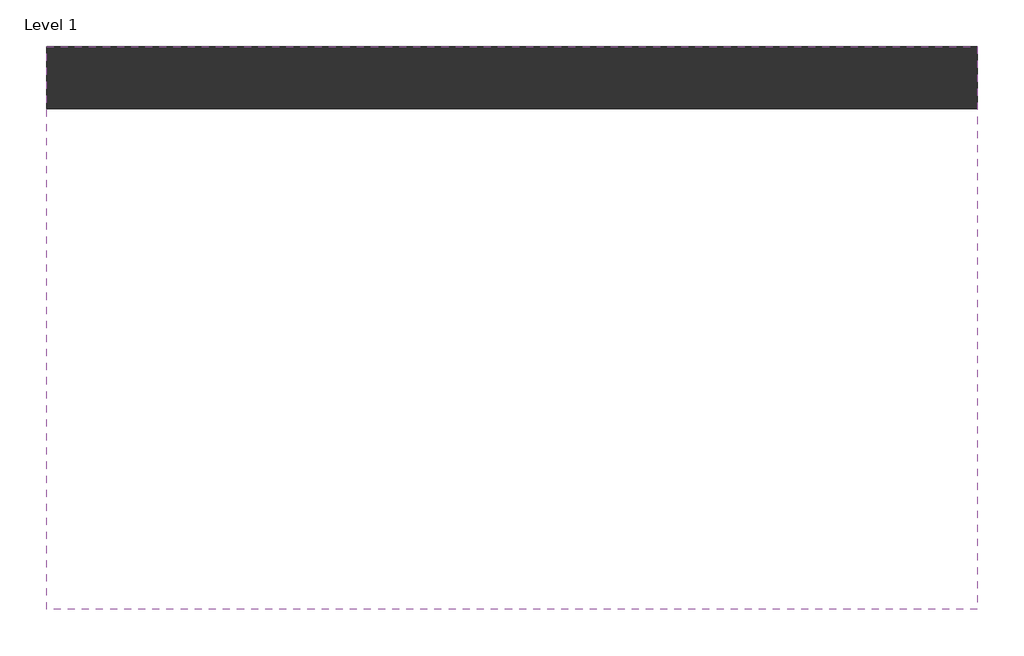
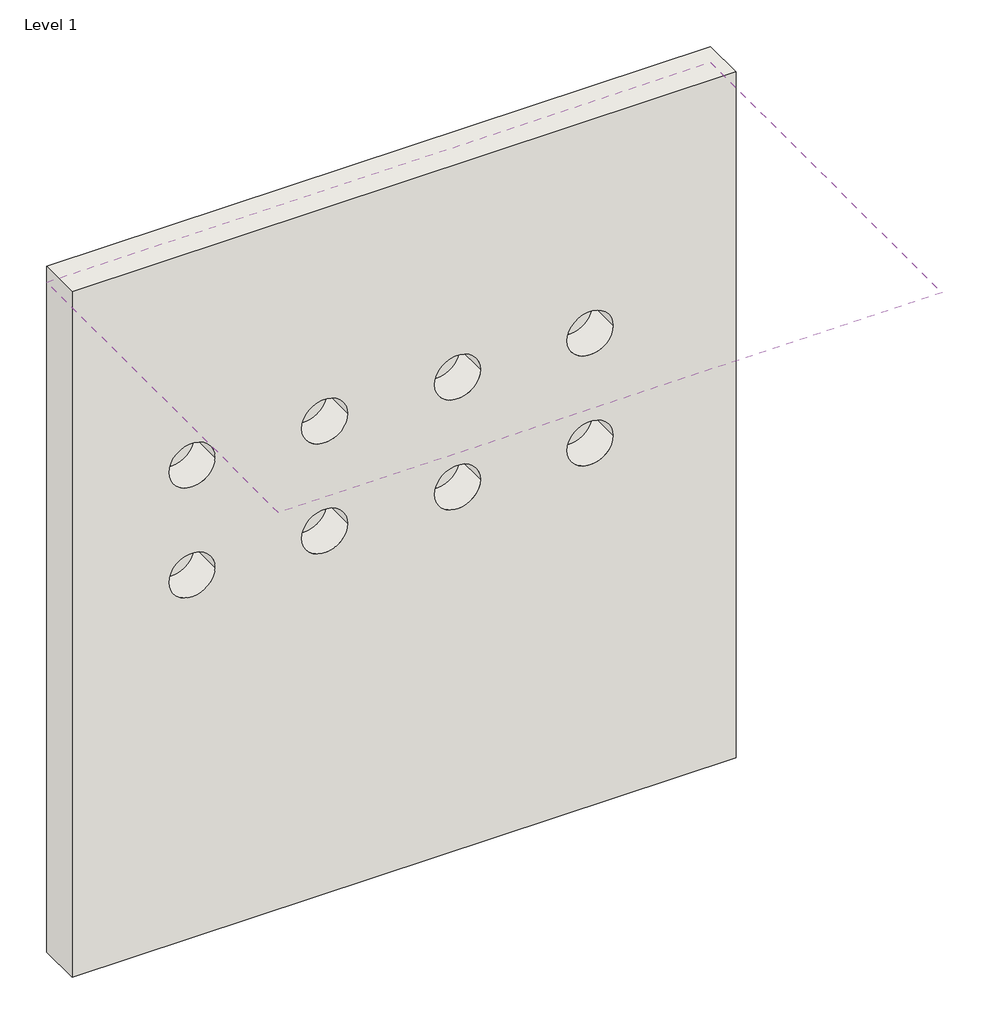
# One storey, incomplete: 1 covering, 1 wall.
"""IFC4 building model written with IfcOpenShell, lengths in millimetres."""

from ifc_helpers import new_model, si_unit, point, frame, frame_2d, origin, place, context, project, spatial, polyline, circle_curve, trimmed, segment, composite_curve, outline, extrude, element, save
from ifc_brep_helpers import plane_surface, revolved_surface, advanced_brep

model = new_model("IFC4")

# Units and contexts
model_context = context("Model", 3, world=origin())
ifc_project = project(units=[si_unit("LENGTHUNIT", "METRE", prefix="MILLI")], contexts=[model_context])

# Site, building, storey
site = spatial("IfcSite", under=ifc_project)
building = spatial("IfcBuilding", under=site)
storey = spatial("IfcBuildingStorey", under=building, Name="Level 1", Elevation=0.0)

# Covering
placement = place(None, origin())
element("IfcCovering", 1, ObjectType="2' x 4' ACT System", at=placement, inside=storey, context=model_context, shape_type="SweptSolid", body=[
    extrude(outline(polyline([(1833.1973575, 2115.5766815), (4119.1973575, 2115.5766815), (4119.1973575, 732.2741036), (1833.1973575, 732.2741036), (1833.1973575, 2115.5766815)]), holes=[composite_curve([segment(trimmed(circle_curve(frame_2d((2246.1306576, 1579.3766815)), 79.0), [point((2325.1306576, 1579.3766815))], [point((2167.1306576, 1579.3766815))], True, "CARTESIAN"), True, "CONTINUOUS"), segment(trimmed(circle_curve(frame_2d((2246.1306576, 1579.3766815)), 79.0), [point((2167.1306576, 1579.3766815))], [point((2325.1306576, 1579.3766815))], True, "CARTESIAN"), True, "CONTINUOUS")], self_intersect=False), composite_curve([segment(trimmed(circle_curve(frame_2d((2703.3306576, 1579.3766815)), 79.0), [point((2782.3306576, 1579.3766815))], [point((2624.3306576, 1579.3766815))], True, "CARTESIAN"), True, "CONTINUOUS"), segment(trimmed(circle_curve(frame_2d((2703.3306576, 1579.3766815)), 79.0), [point((2624.3306576, 1579.3766815))], [point((2782.3306576, 1579.3766815))], True, "CARTESIAN"), True, "CONTINUOUS")], self_intersect=False), composite_curve([segment(trimmed(circle_curve(frame_2d((3160.5306576, 1579.3766815)), 79.0), [point((3239.5306576, 1579.3766815))], [point((3081.5306576, 1579.3766815))], True, "CARTESIAN"), True, "CONTINUOUS"), segment(trimmed(circle_curve(frame_2d((3160.5306576, 1579.3766815)), 79.0), [point((3081.5306576, 1579.3766815))], [point((3239.5306576, 1579.3766815))], True, "CARTESIAN"), True, "CONTINUOUS")], self_intersect=False), composite_curve([segment(trimmed(circle_curve(frame_2d((3617.7306556, 1579.3766815)), 79.0), [point((3696.7306556, 1579.3766815))], [point((3538.7306556, 1579.3766815))], True, "CARTESIAN"), True, "CONTINUOUS"), segment(trimmed(circle_curve(frame_2d((3617.7306556, 1579.3766815)), 79.0), [point((3538.7306556, 1579.3766815))], [point((3696.7306556, 1579.3766815))], True, "CARTESIAN"), True, "CONTINUOUS")], self_intersect=False), composite_curve([segment(trimmed(circle_curve(frame_2d((3617.7306556, 1179.3766815)), 79.0), [point((3696.7306556, 1179.3766815))], [point((3538.7306556, 1179.3766815))], True, "CARTESIAN"), True, "CONTINUOUS"), segment(trimmed(circle_curve(frame_2d((3617.7306556, 1179.3766815)), 79.0), [point((3538.7306556, 1179.3766815))], [point((3696.7306556, 1179.3766815))], True, "CARTESIAN"), True, "CONTINUOUS")], self_intersect=False), composite_curve([segment(trimmed(circle_curve(frame_2d((3160.5306576, 1179.3766815)), 79.0), [point((3239.5306576, 1179.3766815))], [point((3081.5306576, 1179.3766815))], True, "CARTESIAN"), True, "CONTINUOUS"), segment(trimmed(circle_curve(frame_2d((3160.5306576, 1179.3766815)), 79.0), [point((3081.5306576, 1179.3766815))], [point((3239.5306576, 1179.3766815))], True, "CARTESIAN"), True, "CONTINUOUS")], self_intersect=False), composite_curve([segment(trimmed(circle_curve(frame_2d((2703.3306576, 1179.3766815)), 79.0), [point((2782.3306576, 1179.3766815))], [point((2624.3306576, 1179.3766815))], True, "CARTESIAN"), True, "CONTINUOUS"), segment(trimmed(circle_curve(frame_2d((2703.3306576, 1179.3766815)), 79.0), [point((2624.3306576, 1179.3766815))], [point((2782.3306576, 1179.3766815))], True, "CARTESIAN"), True, "CONTINUOUS")], self_intersect=False), composite_curve([segment(trimmed(circle_curve(frame_2d((2246.1306576, 1179.3766815)), 79.0), [point((2325.1306576, 1179.3766815))], [point((2167.1306576, 1179.3766815))], True, "CARTESIAN"), True, "CONTINUOUS"), segment(trimmed(circle_curve(frame_2d((2246.1306576, 1179.3766815)), 79.0), [point((2167.1306576, 1179.3766815))], [point((2325.1306576, 1179.3766815))], True, "CARTESIAN"), True, "CONTINUOUS")], self_intersect=False)]), frame((0.0, 0.0, 2438.4), z_axis=(0.0, 0.0, 1.0), x_axis=(1.0, 0.0, 0.0)), (0.0, 0.0, 1.0), 57.15),
])

# Wall
element("IfcWall", 2, ObjectType="Exterior - 6\" Generic", at=placement, inside=storey, context=model_context, shape_type="AdvancedBrep", body=[
    advanced_brep(
    [(1833.1973575, 1963.1766815, 0.0), (4119.1973575, 1963.1766815, 0.0), (4119.1973575, 1963.1766815, 2495.55), (1833.1973575, 1963.1766815, 2495.55), (3538.7306576, 1963.1766815, 1720.4804373), (3696.7306576, 1963.1766815, 1720.4804373), (3081.5306576, 1963.1766815, 1720.4804373), (3239.5306576, 1963.1766815, 1720.4804373), (2624.3306576, 1963.1766815, 1720.4804373), (2782.3306576, 1963.1766815, 1720.4804373), (2167.1306576, 1963.1766815, 1720.4804373), (2325.1306576, 1963.1766815, 1720.4804373), (2167.1306576, 1963.1766815, 1320.4804373), (2325.1306576, 1963.1766815, 1320.4804373), (2624.3306576, 1963.1766815, 1320.4804373), (2782.3306576, 1963.1766815, 1320.4804373), (3081.5306576, 1963.1766815, 1320.4804373), (3239.5306576, 1963.1766815, 1320.4804373), (3538.7306576, 1963.1766815, 1320.4804373), (3696.7306576, 1963.1766815, 1320.4804373), (4119.1973575, 2115.5766815, 0.0), (1833.1973575, 2115.5766815, 0.0), (1833.1973575, 2115.5766815, 2495.55), (4119.1973575, 2115.5766815, 2495.55), (3696.7306576, 2087.1167099, 1720.4804373), (3538.7306576, 2087.1167099, 1720.4804373), (3239.5306576, 2087.1167099, 1720.4804373), (3081.5306576, 2087.1167099, 1720.4804373), (2782.3306576, 2087.1167099, 1720.4804373), (2624.3306576, 2087.1167099, 1720.4804373), (2325.1306576, 2087.1167099, 1720.4804373), (2167.1306576, 2087.1167099, 1720.4804373), (2325.1306576, 2087.1167099, 1320.4804373), (2167.1306576, 2087.1167099, 1320.4804373), (2782.3306576, 2087.1167099, 1320.4804373), (2624.3306576, 2087.1167099, 1320.4804373), (3239.5306576, 2087.1167099, 1320.4804373), (3081.5306576, 2087.1167099, 1320.4804373), (3696.7306576, 2087.1167099, 1320.4804373), (3538.7306576, 2087.1167099, 1320.4804373)],
    [
        (0, 1),
        (1, 2),
        (2, 3),
        (3, 0),
        (4, 5, circle_curve(frame((3617.7306576, 1963.1766815, 1720.4804373), z_axis=(0.0, 1.0, 0.0), x_axis=(-1.0, 0.0, 0.0)), 79.0)),
        (5, 4, circle_curve(frame((3617.7306576, 1963.1766815, 1720.4804373), z_axis=(0.0, 1.0, 0.0), x_axis=(-1.0, 0.0, 0.0)), 79.0)),
        (6, 7, circle_curve(frame((3160.5306576, 1963.1766815, 1720.4804373), z_axis=(0.0, 1.0, 0.0), x_axis=(-1.0, 0.0, 0.0)), 79.0)),
        (7, 6, circle_curve(frame((3160.5306576, 1963.1766815, 1720.4804373), z_axis=(0.0, 1.0, 0.0), x_axis=(-1.0, 0.0, 0.0)), 79.0)),
        (8, 9, circle_curve(frame((2703.3306576, 1963.1766815, 1720.4804373), z_axis=(0.0, 1.0, 0.0), x_axis=(-1.0, 0.0, 0.0)), 79.0)),
        (9, 8, circle_curve(frame((2703.3306576, 1963.1766815, 1720.4804373), z_axis=(0.0, 1.0, 0.0), x_axis=(-1.0, 0.0, 0.0)), 79.0)),
        (10, 11, circle_curve(frame((2246.1306576, 1963.1766815, 1720.4804373), z_axis=(0.0, 1.0, 0.0), x_axis=(-1.0, 0.0, 0.0)), 79.0)),
        (11, 10, circle_curve(frame((2246.1306576, 1963.1766815, 1720.4804373), z_axis=(0.0, 1.0, 0.0), x_axis=(-1.0, 0.0, 0.0)), 79.0)),
        (12, 13, circle_curve(frame((2246.1306576, 1963.1766815, 1320.4804373), z_axis=(0.0, 1.0, 0.0), x_axis=(-1.0, 0.0, 0.0)), 79.0)),
        (13, 12, circle_curve(frame((2246.1306576, 1963.1766815, 1320.4804373), z_axis=(0.0, 1.0, 0.0), x_axis=(-1.0, 0.0, 0.0)), 79.0)),
        (14, 15, circle_curve(frame((2703.3306576, 1963.1766815, 1320.4804373), z_axis=(0.0, 1.0, 0.0), x_axis=(-1.0, 0.0, 0.0)), 79.0)),
        (15, 14, circle_curve(frame((2703.3306576, 1963.1766815, 1320.4804373), z_axis=(0.0, 1.0, 0.0), x_axis=(-1.0, 0.0, 0.0)), 79.0)),
        (16, 17, circle_curve(frame((3160.5306576, 1963.1766815, 1320.4804373), z_axis=(0.0, 1.0, 0.0), x_axis=(-1.0, 0.0, 0.0)), 79.0)),
        (17, 16, circle_curve(frame((3160.5306576, 1963.1766815, 1320.4804373), z_axis=(0.0, 1.0, 0.0), x_axis=(-1.0, 0.0, 0.0)), 79.0)),
        (18, 19, circle_curve(frame((3617.7306576, 1963.1766815, 1320.4804373), z_axis=(0.0, 1.0, 0.0), x_axis=(-1.0, 0.0, 0.0)), 79.0)),
        (19, 18, circle_curve(frame((3617.7306576, 1963.1766815, 1320.4804373), z_axis=(0.0, 1.0, 0.0), x_axis=(-1.0, 0.0, 0.0)), 79.0)),
        (20, 21),
        (21, 22),
        (22, 23),
        (23, 20),
        (0, 21),
        (20, 1),
        (23, 2),
        (22, 3),
        (24, 25, circle_curve(frame((3617.7306576, 2087.1167099, 1720.4804373), z_axis=(0.0, -1.0, 0.0), x_axis=(-1.0, 0.0, 0.0)), 79.0)),
        (25, 24, circle_curve(frame((3617.7306576, 2087.1167099, 1720.4804373), z_axis=(0.0, -1.0, 0.0), x_axis=(-1.0, 0.0, 0.0)), 79.0)),
        (24, 5),
        (4, 25),
        (26, 27, circle_curve(frame((3160.5306576, 2087.1167099, 1720.4804373), z_axis=(0.0, -1.0, 0.0), x_axis=(-1.0, 0.0, 0.0)), 79.0)),
        (27, 26, circle_curve(frame((3160.5306576, 2087.1167099, 1720.4804373), z_axis=(0.0, -1.0, 0.0), x_axis=(-1.0, 0.0, 0.0)), 79.0)),
        (26, 7),
        (6, 27),
        (28, 29, circle_curve(frame((2703.3306576, 2087.1167099, 1720.4804373), z_axis=(0.0, -1.0, 0.0), x_axis=(-1.0, 0.0, 0.0)), 79.0)),
        (29, 28, circle_curve(frame((2703.3306576, 2087.1167099, 1720.4804373), z_axis=(0.0, -1.0, 0.0), x_axis=(-1.0, 0.0, 0.0)), 79.0)),
        (28, 9),
        (8, 29),
        (30, 31, circle_curve(frame((2246.1306576, 2087.1167099, 1720.4804373), z_axis=(0.0, -1.0, 0.0), x_axis=(-1.0, 0.0, 0.0)), 79.0)),
        (31, 30, circle_curve(frame((2246.1306576, 2087.1167099, 1720.4804373), z_axis=(0.0, -1.0, 0.0), x_axis=(-1.0, 0.0, 0.0)), 79.0)),
        (30, 11),
        (10, 31),
        (32, 33, circle_curve(frame((2246.1306576, 2087.1167099, 1320.4804373), z_axis=(0.0, -1.0, 0.0), x_axis=(-1.0, 0.0, 0.0)), 79.0)),
        (33, 32, circle_curve(frame((2246.1306576, 2087.1167099, 1320.4804373), z_axis=(0.0, -1.0, 0.0), x_axis=(-1.0, 0.0, 0.0)), 79.0)),
        (32, 13),
        (12, 33),
        (34, 35, circle_curve(frame((2703.3306576, 2087.1167099, 1320.4804373), z_axis=(0.0, -1.0, 0.0), x_axis=(-1.0, 0.0, 0.0)), 79.0)),
        (35, 34, circle_curve(frame((2703.3306576, 2087.1167099, 1320.4804373), z_axis=(0.0, -1.0, 0.0), x_axis=(-1.0, 0.0, 0.0)), 79.0)),
        (34, 15),
        (14, 35),
        (36, 37, circle_curve(frame((3160.5306576, 2087.1167099, 1320.4804373), z_axis=(0.0, -1.0, 0.0), x_axis=(-1.0, 0.0, 0.0)), 79.0)),
        (37, 36, circle_curve(frame((3160.5306576, 2087.1167099, 1320.4804373), z_axis=(0.0, -1.0, 0.0), x_axis=(-1.0, 0.0, 0.0)), 79.0)),
        (36, 17),
        (16, 37),
        (38, 39, circle_curve(frame((3617.7306576, 2087.1167099, 1320.4804373), z_axis=(0.0, -1.0, 0.0), x_axis=(-1.0, 0.0, 0.0)), 79.0)),
        (39, 38, circle_curve(frame((3617.7306576, 2087.1167099, 1320.4804373), z_axis=(0.0, -1.0, 0.0), x_axis=(-1.0, 0.0, 0.0)), 79.0)),
        (38, 19),
        (18, 39),
    ],
    [
        plane_surface(frame((1833.1973575, 1963.1766815, 0.0), z_axis=(0.0, -1.0, 0.0), x_axis=(1.0, 0.0, 0.0))),
        plane_surface(frame((1833.1973575, 2115.5766815, 0.0), z_axis=(0.0, 1.0, 0.0), x_axis=(-1.0, 0.0, 0.0))),
        plane_surface(frame((1833.1973575, 1963.1766815, 0.0), z_axis=(0.0, 0.0, -1.0), x_axis=(0.0, 1.0, 0.0))),
        plane_surface(frame((4119.1973575, 1963.1766815, 0.0), z_axis=(1.0, 0.0, 0.0), x_axis=(0.0, 1.0, 0.0))),
        plane_surface(frame((4119.1973575, 1963.1766815, 2495.55), z_axis=(0.0, 0.0, 1.0), x_axis=(0.0, 1.0, 0.0))),
        plane_surface(frame((1833.1973575, 1963.1766815, 2495.55), z_axis=(-1.0, 0.0, 0.0), x_axis=(0.0, 1.0, 0.0))),
        plane_surface(frame((3538.7306576, 2087.1167099, 1720.4804373), z_axis=(0.0, -1.0, 0.0), x_axis=(0.0, 0.0, 1.0))),
        revolved_surface(polyline([(3538.7306576, 1963.1766815, 1720.4804373), (3538.7306576, 2087.1167099, 1720.4804373)]), (3617.7306576, 2087.1167099, 1720.4804373), (0.0, -1.0, 0.0)),
        plane_surface(frame((3081.5306576, 2087.1167099, 1720.4804373), z_axis=(0.0, -1.0, 0.0), x_axis=(0.0, 0.0, 1.0))),
        revolved_surface(polyline([(3081.5306576, 1963.1766815, 1720.4804373), (3081.5306576, 2087.1167099, 1720.4804373)]), (3160.5306576, 2087.1167099, 1720.4804373), (0.0, -1.0, 0.0)),
        plane_surface(frame((2624.3306576, 2087.1167099, 1720.4804373), z_axis=(0.0, -1.0, 0.0), x_axis=(0.0, 0.0, 1.0))),
        revolved_surface(polyline([(2624.3306576, 1963.1766815, 1720.4804373), (2624.3306576, 2087.1167099, 1720.4804373)]), (2703.3306576, 2087.1167099, 1720.4804373), (0.0, -1.0, 0.0)),
        plane_surface(frame((2167.1306576, 2087.1167099, 1720.4804373), z_axis=(0.0, -1.0, 0.0), x_axis=(0.0, 0.0, 1.0))),
        revolved_surface(polyline([(2167.1306576, 1963.1766815, 1720.4804373), (2167.1306576, 2087.1167099, 1720.4804373)]), (2246.1306576, 2087.1167099, 1720.4804373), (0.0, -1.0, 0.0)),
        plane_surface(frame((2167.1306576, 2087.1167099, 1320.4804373), z_axis=(0.0, -1.0, 0.0), x_axis=(0.0, 0.0, 1.0))),
        revolved_surface(polyline([(2167.1306576, 1963.1766815, 1320.4804373), (2167.1306576, 2087.1167099, 1320.4804373)]), (2246.1306576, 2087.1167099, 1320.4804373), (0.0, -1.0, 0.0)),
        plane_surface(frame((2624.3306576, 2087.1167099, 1320.4804373), z_axis=(0.0, -1.0, 0.0), x_axis=(0.0, 0.0, 1.0))),
        revolved_surface(polyline([(2624.3306576, 1963.1766815, 1320.4804373), (2624.3306576, 2087.1167099, 1320.4804373)]), (2703.3306576, 2087.1167099, 1320.4804373), (0.0, -1.0, 0.0)),
        plane_surface(frame((3081.5306576, 2087.1167099, 1320.4804373), z_axis=(0.0, -1.0, 0.0), x_axis=(0.0, 0.0, 1.0))),
        revolved_surface(polyline([(3081.5306576, 1963.1766815, 1320.4804373), (3081.5306576, 2087.1167099, 1320.4804373)]), (3160.5306576, 2087.1167099, 1320.4804373), (0.0, -1.0, 0.0)),
        plane_surface(frame((3538.7306576, 2087.1167099, 1320.4804373), z_axis=(0.0, -1.0, 0.0), x_axis=(0.0, 0.0, 1.0))),
        revolved_surface(polyline([(3538.7306576, 1963.1766815, 1320.4804373), (3538.7306576, 2087.1167099, 1320.4804373)]), (3617.7306576, 2087.1167099, 1320.4804373), (0.0, -1.0, 0.0)),
    ],
    [
        (0, [[1, 2, 3, 4], [5, 6], [7, 8], [9, 10], [11, 12], [13, 14], [15, 16], [17, 18], [19, 20]]),
        (1, [[21, 22, 23, 24]]),
        (2, [[-1, 25, -21, 26]]),
        (3, [[-2, -26, -24, 27]]),
        (4, [[-3, -27, -23, 28]]),
        (5, [[-4, -28, -22, -25]]),
        (6, [[29, 30]]),
        (7, [[-29, 31, -5, 32]]),
        (7, [[-30, -32, -6, -31]]),
        (8, [[33, 34]]),
        (9, [[-33, 35, -7, 36]]),
        (9, [[-34, -36, -8, -35]]),
        (10, [[37, 38]]),
        (11, [[-37, 39, -9, 40]]),
        (11, [[-38, -40, -10, -39]]),
        (12, [[41, 42]]),
        (13, [[-41, 43, -11, 44]]),
        (13, [[-42, -44, -12, -43]]),
        (14, [[45, 46]]),
        (15, [[-45, 47, -13, 48]]),
        (15, [[-46, -48, -14, -47]]),
        (16, [[49, 50]]),
        (17, [[-49, 51, -15, 52]]),
        (17, [[-50, -52, -16, -51]]),
        (18, [[53, 54]]),
        (19, [[-53, 55, -17, 56]]),
        (19, [[-54, -56, -18, -55]]),
        (20, [[57, 58]]),
        (21, [[-57, 59, -19, 60]]),
        (21, [[-58, -60, -20, -59]]),
    ],
),
])

save(model, "model.ifc")
